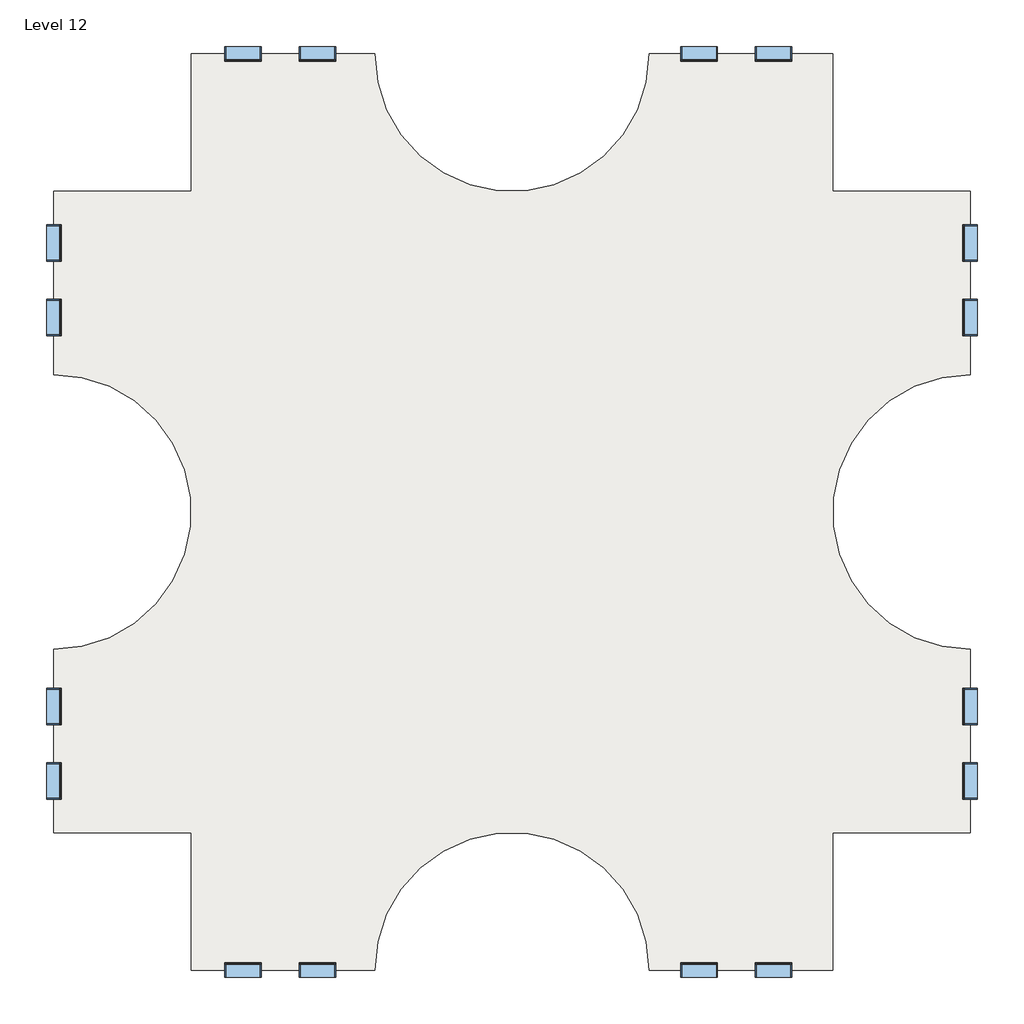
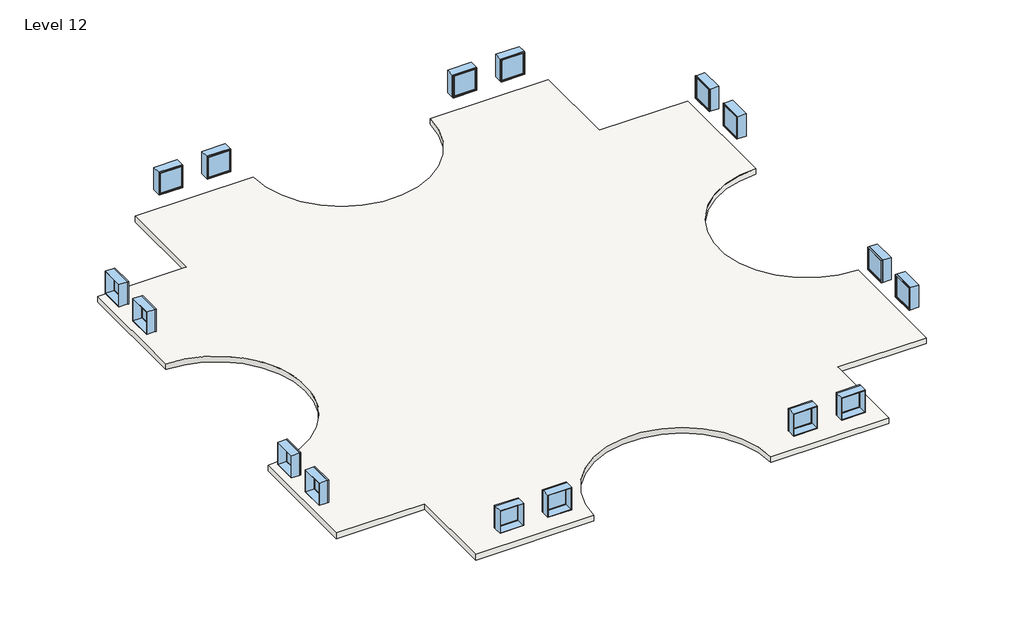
# One storey: 16 windows, 2 slabs.
"""IFC4 building model written with IfcOpenShell, lengths in millimetres."""

from ifc_helpers import new_model, si_unit, point, frame, frame_2d, origin, place, context, project, spatial, polyline, circle_curve, trimmed, segment, composite_curve, outline, extrude, transform, mapped, element, save
from components import window_d0035ecf, window_d434eb62

model = new_model("IFC4")

# Units and contexts
model_context = context("Model", 3, world=origin())
ifc_project = project(units=[si_unit("LENGTHUNIT", "METRE", prefix="MILLI")], contexts=[model_context])

# Site, building, storey
site = spatial("IfcSite", under=ifc_project)
building = spatial("IfcBuilding", under=site)
storey = spatial("IfcBuildingStorey", under=building, Name="Level 12", Elevation=33528.0)

# Slabs
placement = place(None, origin())
element("IfcSlab", 1, ObjectType="Generic - 12\"", at=placement, inside=storey, context=model_context, shape_type="SweptSolid", body=[
    extrude(outline(composite_curve([segment(polyline([(-7150.3629456, 4479.6634547), (-7150.3629456, 9051.6634547), (-1054.3629456, 9051.6634547)]), True, "CONTINUOUS"), segment(trimmed(circle_curve(frame_2d((3517.6370544, 9051.6634547)), 4572.0), [point((-1054.3629456, 9051.6634547))], [point((8089.6370544, 9051.6634547))], True, "CARTESIAN"), True, "CONTINUOUS"), segment(polyline([(8089.6370544, 9051.6634547), (14185.6370544, 9051.6634547), (14185.6370544, 4479.6634547), (18757.6370544, 4479.6634547), (18757.6370544, -1616.3365453)]), True, "CONTINUOUS"), segment(trimmed(circle_curve(frame_2d((18757.6370544, -6188.3365453)), 4572.0), [point((18757.6370544, -1616.3365453))], [point((18757.6370544, -10760.3365453))], True, "CARTESIAN"), True, "CONTINUOUS"), segment(polyline([(18757.6370544, -10760.3365453), (18757.6370544, -16856.3365453), (14185.6370544, -16856.3365453), (14185.6370544, -21428.3365453), (8089.6370544, -21428.3365453)]), True, "CONTINUOUS"), segment(trimmed(circle_curve(frame_2d((3517.6370544, -21428.3365453)), 4572.0), [point((8089.6370544, -21428.3365453))], [point((-1054.3629456, -21428.3365453))], True, "CARTESIAN"), True, "CONTINUOUS"), segment(polyline([(-1054.3629456, -21428.3365453), (-7150.3629456, -21428.3365453), (-7150.3629456, -16856.3365453), (-11722.3629456, -16856.3365453), (-11722.3629456, -10760.3365453)]), True, "CONTINUOUS"), segment(trimmed(circle_curve(frame_2d((-11722.3629456, -6188.3365453)), 4572.0), [point((-11722.3629456, -10760.3365453))], [point((-11722.3629456, -1616.3365453))], True, "CARTESIAN"), True, "CONTINUOUS"), segment(polyline([(-11722.3629456, -1616.3365453), (-11722.3629456, 4479.6634547), (-7150.3629456, 4479.6634547)]), True, "CONTINUOUS")], self_intersect=False)), frame((0.0, 0.0, 33223.2), z_axis=(0.0, 0.0, 1.0), x_axis=(1.0, 0.0, 0.0)), (0.0, 0.0, 1.0), 304.8),
])
element("IfcSlab", 2, ObjectType="Generic - 12\"", at=placement, inside=storey, context=model_context, shape_type="SweptSolid", body=[
    extrude(outline(composite_curve([segment(polyline([(-7150.3629456, 4479.6634547), (-7150.3629456, 9051.6634547), (-1054.3629456, 9051.6634547)]), True, "CONTINUOUS"), segment(trimmed(circle_curve(frame_2d((3517.6370544, 9051.6634547)), 4572.0), [point((-1054.3629456, 9051.6634547))], [point((8089.6370544, 9051.6634547))], True, "CARTESIAN"), True, "CONTINUOUS"), segment(polyline([(8089.6370544, 9051.6634547), (14185.6370544, 9051.6634547), (14185.6370544, 4479.6634547), (18757.6370544, 4479.6634547), (18757.6370544, -1616.3365453)]), True, "CONTINUOUS"), segment(trimmed(circle_curve(frame_2d((18757.6370544, -6188.3365453)), 4572.0), [point((18757.6370544, -1616.3365453))], [point((18757.6370544, -10760.3365453))], True, "CARTESIAN"), True, "CONTINUOUS"), segment(polyline([(18757.6370544, -10760.3365453), (18757.6370544, -16856.3365453), (14185.6370544, -16856.3365453), (14185.6370544, -21428.3365453), (8089.6370544, -21428.3365453)]), True, "CONTINUOUS"), segment(trimmed(circle_curve(frame_2d((3517.6370544, -21428.3365453)), 4572.0), [point((8089.6370544, -21428.3365453))], [point((-1054.3629456, -21428.3365453))], True, "CARTESIAN"), True, "CONTINUOUS"), segment(polyline([(-1054.3629456, -21428.3365453), (-7150.3629456, -21428.3365453), (-7150.3629456, -16856.3365453), (-11722.3629456, -16856.3365453), (-11722.3629456, -10760.3365453)]), True, "CONTINUOUS"), segment(trimmed(circle_curve(frame_2d((-11722.3629456, -6188.3365453)), 4572.0), [point((-11722.3629456, -10760.3365453))], [point((-11722.3629456, -1616.3365453))], True, "CARTESIAN"), True, "CONTINUOUS"), segment(polyline([(-11722.3629456, -1616.3365453), (-11722.3629456, 4479.6634547), (-7150.3629456, 4479.6634547)]), True, "CONTINUOUS")], self_intersect=False)), frame((0.0, 0.0, 33223.2), z_axis=(0.0, 0.0, 1.0), x_axis=(1.0, 0.0, 0.0)), (0.0, 0.0, 1.0), 304.8),
])

# Windows
window_shape = window_d0035ecf(model_context)
element("IfcWindow", 3, ObjectType="Fixed : 48\" x 48\"", at=placement, inside=storey, context=model_context, shape_type="MappedRepresentation", body=[
    mapped(window_shape, transform((-11719.1879456, 247.3884547, 33528.0), x_axis=(0.0, -1.0, 0.0), y_axis=(1.0, 0.0, 0.0), z_axis=(0.0, 0.0, 1.0))),
])
element("IfcWindow", 4, ObjectType="Fixed : 48\" x 48\"", at=placement, inside=storey, context=model_context, shape_type="MappedRepresentation", body=[
    mapped(window_shape, transform((-5469.1993281, 9048.4884547, 33528.0), x_axis=(-1.0, 0.0, 0.0), y_axis=(0.0, -1.0, 0.0), z_axis=(0.0, 0.0, 1.0))),
])
element("IfcWindow", 5, ObjectType="Fixed : 48\" x 48\"", at=placement, inside=storey, context=model_context, shape_type="MappedRepresentation", body=[
    mapped(window_shape, transform((-11719.1879456, -15175.1729277, 33528.0), x_axis=(0.0, -1.0, 0.0), y_axis=(1.0, 0.0, 0.0), z_axis=(0.0, 0.0, 1.0))),
])
element("IfcWindow", 6, ObjectType="Fixed : 48\" x 48\"", at=placement, inside=storey, context=model_context, shape_type="MappedRepresentation", body=[
    mapped(window_shape, transform((-2918.0879456, -21425.1615453, 33528.0), x_axis=(1.0, 0.0, 0.0), y_axis=(0.0, 1.0, 0.0), z_axis=(0.0, 0.0, 1.0))),
])
element("IfcWindow", 7, ObjectType="Fixed : 48\" x 48\"", at=placement, inside=storey, context=model_context, shape_type="MappedRepresentation", body=[
    mapped(window_shape, transform((18754.4620544, 2798.4998372, 33528.0), x_axis=(0.0, 1.0, 0.0), y_axis=(-1.0, 0.0, 0.0), z_axis=(0.0, 0.0, 1.0))),
])
element("IfcWindow", 8, ObjectType="Fixed : 48\" x 48\"", at=placement, inside=storey, context=model_context, shape_type="MappedRepresentation", body=[
    mapped(window_shape, transform((9705.7120544, 9048.4884547, 33528.0), x_axis=(-1.0, 0.0, 0.0), y_axis=(0.0, -1.0, 0.0), z_axis=(0.0, 0.0, 1.0))),
])
element("IfcWindow", 9, ObjectType="Fixed : 48\" x 48\"", at=placement, inside=storey, context=model_context, shape_type="MappedRepresentation", body=[
    mapped(window_shape, transform((18754.4620544, -12624.0615453, 33528.0), x_axis=(0.0, 1.0, 0.0), y_axis=(-1.0, 0.0, 0.0), z_axis=(0.0, 0.0, 1.0))),
])
element("IfcWindow", 10, ObjectType="Fixed : 48\" x 48\"", at=placement, inside=storey, context=model_context, shape_type="MappedRepresentation", body=[
    mapped(window_shape, transform((12256.8234368, -21425.1615453, 33528.0), x_axis=(1.0, 0.0, 0.0), y_axis=(0.0, 1.0, 0.0), z_axis=(0.0, 0.0, 1.0))),
])
window_2_shape = window_d434eb62(model_context)
element("IfcWindow", 11, ObjectType="Fixed : 48\" x 48\"", at=placement, inside=storey, context=model_context, shape_type="MappedRepresentation", body=[
    mapped(window_2_shape, transform((-11719.1879456, 2798.4998372, 33528.0), x_axis=(0.0, 1.0, 0.0), y_axis=(-1.0, 0.0, 0.0), z_axis=(0.0, 0.0, 1.0))),
])
element("IfcWindow", 12, ObjectType="Fixed : 48\" x 48\"", at=placement, inside=storey, context=model_context, shape_type="MappedRepresentation", body=[
    mapped(window_2_shape, transform((-2918.0879456, 9048.4884547, 33528.0), x_axis=(1.0, 0.0, 0.0), y_axis=(0.0, 1.0, 0.0), z_axis=(0.0, 0.0, 1.0))),
])
element("IfcWindow", 13, ObjectType="Fixed : 48\" x 48\"", at=placement, inside=storey, context=model_context, shape_type="MappedRepresentation", body=[
    mapped(window_2_shape, transform((-11719.1879456, -12624.0615453, 33528.0), x_axis=(0.0, 1.0, 0.0), y_axis=(-1.0, 0.0, 0.0), z_axis=(0.0, 0.0, 1.0))),
])
element("IfcWindow", 14, ObjectType="Fixed : 48\" x 48\"", at=placement, inside=storey, context=model_context, shape_type="MappedRepresentation", body=[
    mapped(window_2_shape, transform((-5469.1993281, -21425.1615453, 33528.0), x_axis=(-1.0, 0.0, 0.0), y_axis=(0.0, -1.0, 0.0), z_axis=(0.0, 0.0, 1.0))),
])
element("IfcWindow", 15, ObjectType="Fixed : 48\" x 48\"", at=placement, inside=storey, context=model_context, shape_type="MappedRepresentation", body=[
    mapped(window_2_shape, transform((18754.4620544, 247.3884547, 33528.0), x_axis=(0.0, -1.0, 0.0), y_axis=(1.0, 0.0, 0.0), z_axis=(0.0, 0.0, 1.0))),
])
element("IfcWindow", 16, ObjectType="Fixed : 48\" x 48\"", at=placement, inside=storey, context=model_context, shape_type="MappedRepresentation", body=[
    mapped(window_2_shape, transform((12256.8234368, 9048.4884547, 33528.0), x_axis=(1.0, 0.0, 0.0), y_axis=(0.0, 1.0, 0.0), z_axis=(0.0, 0.0, 1.0))),
])
element("IfcWindow", 17, ObjectType="Fixed : 48\" x 48\"", at=placement, inside=storey, context=model_context, shape_type="MappedRepresentation", body=[
    mapped(window_2_shape, transform((18754.4620544, -15175.1729277, 33528.0), x_axis=(0.0, -1.0, 0.0), y_axis=(1.0, 0.0, 0.0), z_axis=(0.0, 0.0, 1.0))),
])
element("IfcWindow", 18, ObjectType="Fixed : 48\" x 48\"", at=placement, inside=storey, context=model_context, shape_type="MappedRepresentation", body=[
    mapped(window_2_shape, transform((9705.7120544, -21425.1615453, 33528.0), x_axis=(-1.0, 0.0, 0.0), y_axis=(0.0, -1.0, 0.0), z_axis=(0.0, 0.0, 1.0))),
])

save(model, "model.ifc")
